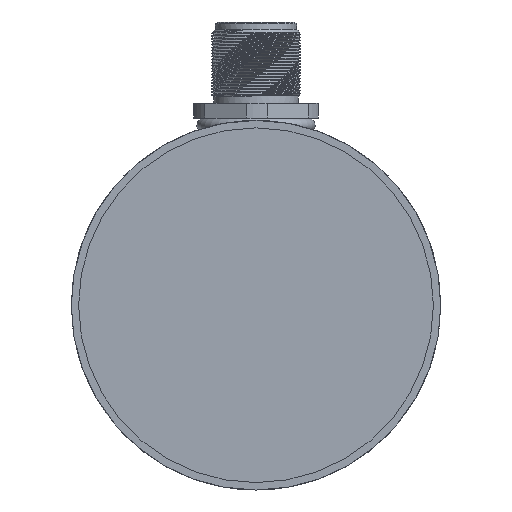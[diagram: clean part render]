
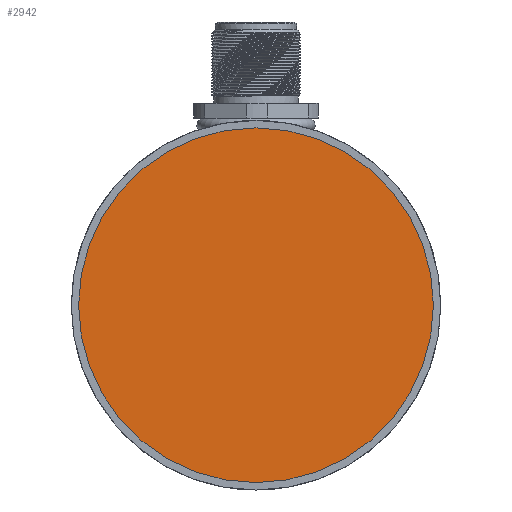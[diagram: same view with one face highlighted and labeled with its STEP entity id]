
A CAD part, left-side view. The second image highlights one B-rep face of the part: STEP entity #2942.
In plain terms, the highlighted planar face has unit normal (-1, 0, 0).
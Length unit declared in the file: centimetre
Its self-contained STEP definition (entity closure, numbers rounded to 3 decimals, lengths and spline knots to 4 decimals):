
#528=CIRCLE('',#3149,2.4);
#626=VERTEX_POINT('',#3900);
#1173=EDGE_CURVE('',#626,#626,#528,.T.);
#1604=ORIENTED_EDGE('',*,*,#1173,.T.);
#2446=EDGE_LOOP('',(#1604));
#2696=FACE_BOUND('',#2446,.T.);
#2942=ADVANCED_FACE('',(#2696),#18945,.T.);
#3149=AXIS2_PLACEMENT_3D('',#3899,#3385,#3386);
#3151=AXIS2_PLACEMENT_3D('',#3903,#3389,$);
#3385=DIRECTION('',(-1.,0.,0.));
#3386=DIRECTION('',(0.,0.,2.4));
#3389=DIRECTION('',(-1.,0.,0.));
#3899=CARTESIAN_POINT('',(0.1,0.,0.));
#3900=CARTESIAN_POINT('',(0.1,0.,2.4));
#3903=CARTESIAN_POINT('',(0.1,0.,0.));
#18945=PLANE('',#3151);
